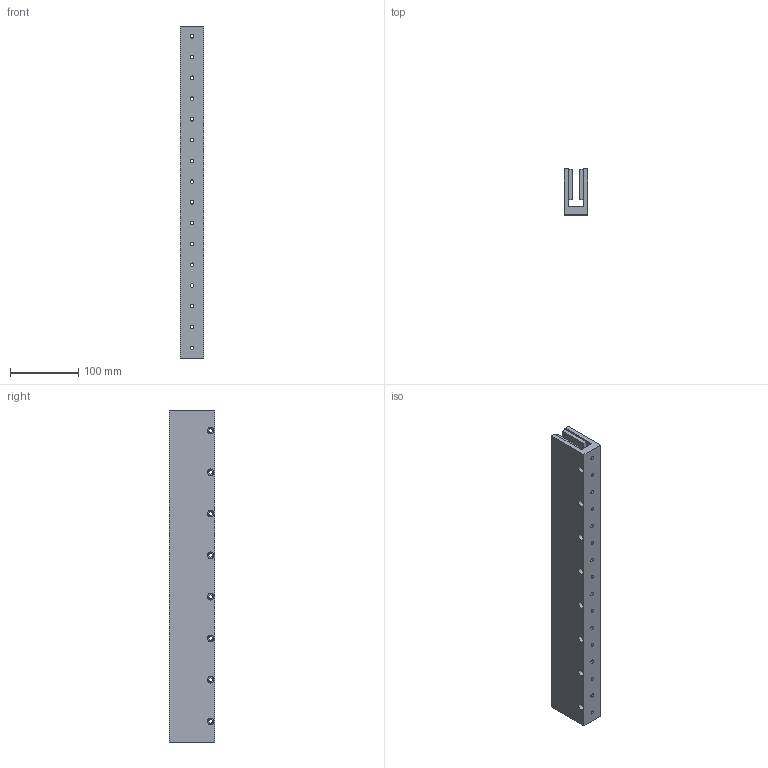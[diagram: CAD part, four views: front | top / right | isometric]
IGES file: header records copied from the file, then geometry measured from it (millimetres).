
Global section: file name: No Iges File Name specified; native system: Autodesk Inventor 2012; preprocessor: AutoDesk Inventor Iges Exporter R2012; author: je17857; date: 20120511.155307; units: inch
Bounding box: 34.29 x 67.31 x 487.43 mm (x, y, z)
Volume: 718581.2 mm3; surface area: 188924.4 mm2
Topology: 1 solids, 1 shells, 242 faces, 560 edges, 376 vertices
Faces by surface type: plane 194, revolution 48
